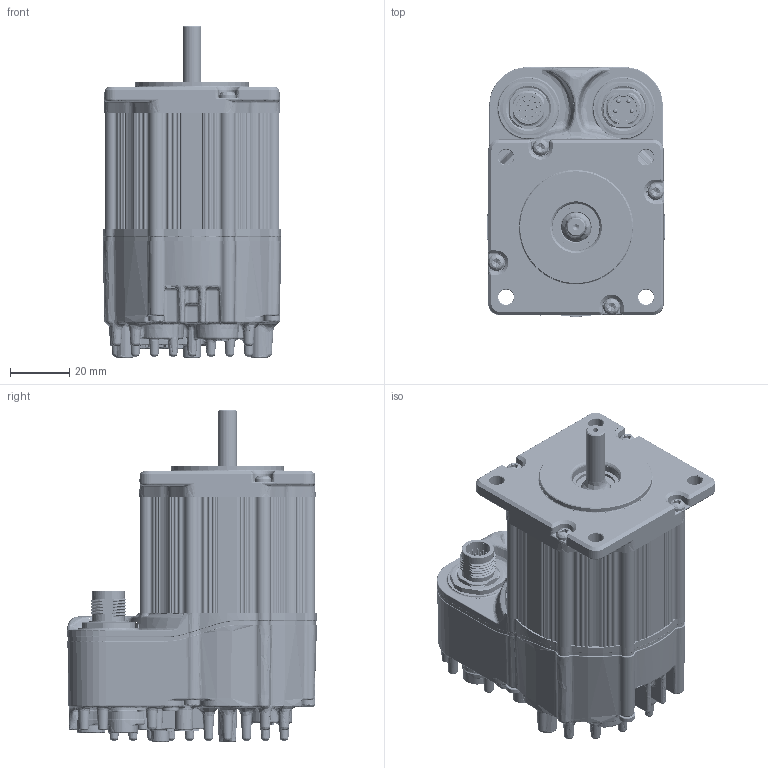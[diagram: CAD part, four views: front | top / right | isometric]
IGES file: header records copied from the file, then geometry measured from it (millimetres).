
Start section: SolidWorks IGES file using analytic representation for surfaces
Global section: file name: C:\TeknicPDM\EtherPath CPM-S\EtherPath CPM-S Customer Files\EC Customer Models\231x-Q EC.IGS; native system: SolidWorks 2020; preprocessor: SolidWorks 2020; author: mike_berezny; date: 231213.164541; units: inch
Bounding box: 60.26 x 84.12 x 111.8 mm (x, y, z)
Surface area: 110081.6 mm2 (no closed solid volume)
Topology: 0 solids, 0 shells, 11895 faces, 106916 edges, 106228 vertices
Faces by surface type: bspline 6178, revolution 5717
